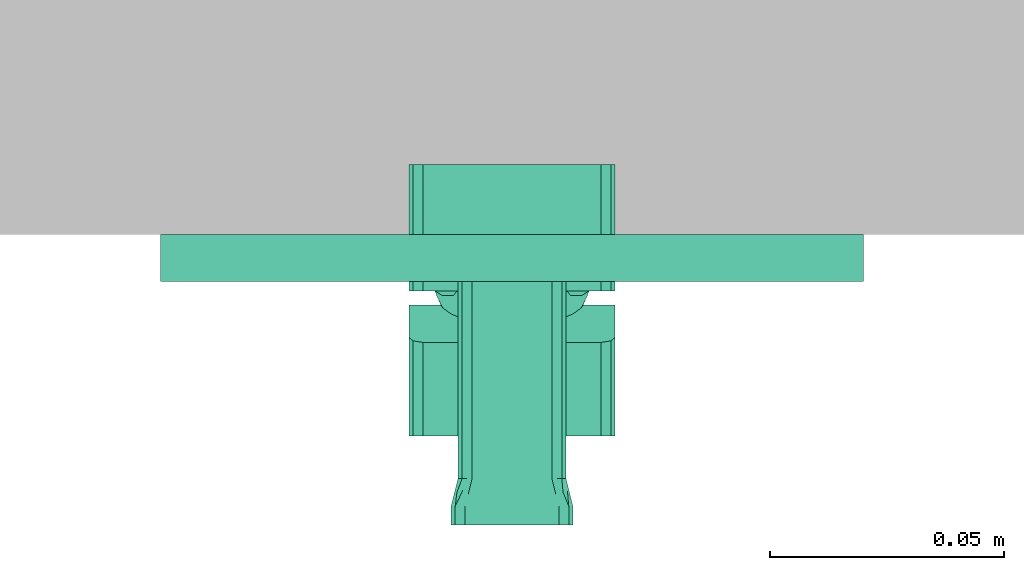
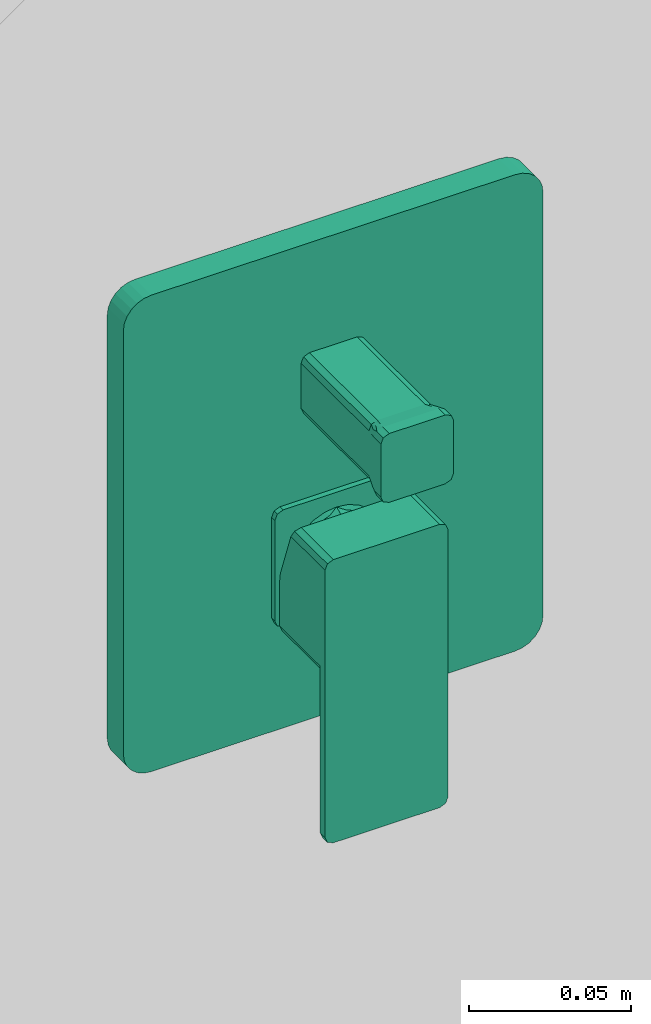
# One storey, part 2 of 2: 1 flow terminal.
"""IFC2X3 building model written with IfcOpenShell, lengths in millimetres."""

from ifc_helpers import new_model, entity, si_unit, converted_unit, derived_unit, direction, frame, origin, place, context, subcontext, project, spatial, faceted_brep, source, transform, mapped, material, type_object, type_shapes, element, save


model = new_model("IFC2X3")

# Units and contexts
model_context = context("Model", 3, precision=0.01, world=origin(), true_north=direction((6.12303176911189e-17, 1.0)))
body_context = subcontext(model_context, "Body", "Model", "MODEL_VIEW")
ifc_project = project(units=[si_unit("LENGTHUNIT", "METRE", prefix="MILLI"), si_unit("AREAUNIT", "SQUARE_METRE"), si_unit("VOLUMEUNIT", "CUBIC_METRE"), converted_unit("PLANEANGLEUNIT", "DEGREE", entity("IfcRatioMeasure", 0.0174532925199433), si_unit("PLANEANGLEUNIT", "RADIAN"), dimensions=[0, 0, 0, 0, 0, 0, 0]), si_unit("MASSUNIT", "GRAM", prefix="KILO"), derived_unit("MASSDENSITYUNIT", [(si_unit("MASSUNIT", "GRAM", prefix="KILO"), 1), (si_unit("LENGTHUNIT", "METRE"), -3)]), derived_unit("MOMENTOFINERTIAUNIT", [(si_unit("LENGTHUNIT", "METRE"), 4)]), si_unit("TIMEUNIT", "SECOND"), si_unit("FREQUENCYUNIT", "HERTZ"), si_unit("THERMODYNAMICTEMPERATUREUNIT", "DEGREE_CELSIUS"), derived_unit("THERMALTRANSMITTANCEUNIT", [(si_unit("MASSUNIT", "GRAM", prefix="KILO"), 1), (si_unit("THERMODYNAMICTEMPERATUREUNIT", "KELVIN"), -1), (si_unit("TIMEUNIT", "SECOND"), -3)]), derived_unit("VOLUMETRICFLOWRATEUNIT", [(si_unit("LENGTHUNIT", "METRE"), 3), (si_unit("TIMEUNIT", "SECOND"), -1)]), si_unit("ELECTRICCURRENTUNIT", "AMPERE"), si_unit("ELECTRICVOLTAGEUNIT", "VOLT"), si_unit("POWERUNIT", "WATT"), si_unit("FORCEUNIT", "NEWTON", prefix="KILO"), si_unit("ILLUMINANCEUNIT", "LUX"), si_unit("LUMINOUSFLUXUNIT", "LUMEN"), si_unit("LUMINOUSINTENSITYUNIT", "CANDELA"), derived_unit("USERDEFINED", [(si_unit("MASSUNIT", "GRAM", prefix="KILO"), -1), (si_unit("LENGTHUNIT", "METRE"), -2), (si_unit("TIMEUNIT", "SECOND"), 3), (si_unit("LUMINOUSFLUXUNIT", "LUMEN"), 1)]), derived_unit("LINEARVELOCITYUNIT", [(si_unit("LENGTHUNIT", "METRE"), 1), (si_unit("TIMEUNIT", "SECOND"), -1)]), si_unit("PRESSUREUNIT", "PASCAL"), derived_unit("USERDEFINED", [(si_unit("LENGTHUNIT", "METRE"), -2), (si_unit("MASSUNIT", "GRAM", prefix="KILO"), 1), (si_unit("TIMEUNIT", "SECOND"), -2)]), derived_unit("LINEARFORCEUNIT", [(si_unit("MASSUNIT", "GRAM", prefix="KILO"), 1), (si_unit("LENGTHUNIT", "METRE"), 1), (si_unit("TIMEUNIT", "SECOND"), -2), (si_unit("LENGTHUNIT", "METRE"), -1)]), derived_unit("PLANARFORCEUNIT", [(si_unit("MASSUNIT", "GRAM", prefix="KILO"), 1), (si_unit("LENGTHUNIT", "METRE"), 1), (si_unit("TIMEUNIT", "SECOND"), -2), (si_unit("LENGTHUNIT", "METRE"), -2)])], contexts=[model_context])

# Site, building, storey
site_placement = place(None, origin())
site = spatial("IfcSite", under=ifc_project, at=site_placement, Name="Default", CompositionType="ELEMENT")
building_placement = place(site_placement, origin())
building = spatial("IfcBuilding", under=site, at=building_placement, CompositionType="ELEMENT")
storey_placement = place(building_placement, origin())
storey = spatial("IfcBuildingStorey", under=building, at=storey_placement, Name="Level 1", CompositionType="ELEMENT", Elevation=0.0)

# Flow terminal
ifc_material = material(Name="Black")
distribution_element_type = type_object("IfcDistributionElementType", Name="FFAS1321-608440BF0_REVIT:Acacia E Concealed BnS  Mixing Valve_MB", material=ifc_material)
shared_shape = source(origin(), body_context, "Body", "Brep", [
    faceted_brep([(66.5952722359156, 77.0, 138.595272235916), (64.4739518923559, 77.0, 139.473951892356), (63.5952722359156, 77.0, 141.595272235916), (63.5952722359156, 77.0, 161.595272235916), (64.473951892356, 77.0, 163.716592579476), (66.5952722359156, 77.0, 164.595272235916), (86.5952722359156, 77.0, 164.595272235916), (88.7165925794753, 77.0, 163.716592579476), (89.5952722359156, 77.0, 161.595272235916), (89.5952722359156, 77.0, 141.595272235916), (88.7165925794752, 77.0, 139.473951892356), (86.5952722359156, 77.0, 138.595272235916), (63.5952722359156, 73.0, 141.595272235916), (63.5952722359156, 73.0, 161.595272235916), (64.4745350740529, 73.0, 139.47336887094), (64.0349036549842, 73.0, 140.534320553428), (66.5952722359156, 73.0, 138.595272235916), (86.5952722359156, 73.0, 138.595272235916), (88.7171756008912, 73.0, 139.474535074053), (87.6562239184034, 73.0, 139.034903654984), (89.5952722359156, 73.0, 141.595272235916), (89.5952722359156, 73.0, 161.595272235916), (88.7160093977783, 73.0, 163.717175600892), (89.175077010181, 73.0, 162.609319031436), (86.5952722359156, 73.0, 164.595272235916), (66.5952722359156, 73.0, 164.595272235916), (64.4745350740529, 73.0, 163.717175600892), (64.0349036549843, 73.0, 162.656223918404), (68.0952722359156, 67.0, 163.095272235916), (85.0952722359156, 67.0, 163.095272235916), (85.9498884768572, 70.418464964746, 163.949888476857), (67.2406561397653, 70.4184643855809, 163.949888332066), (65.6999893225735, 69.9991126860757, 163.353498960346), (67.0812254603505, 67.0, 162.67507701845), (64.7638096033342, 69.7680033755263, 162.213190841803), (65.0952722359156, 67.0, 160.095272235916), (65.97336887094, 67.0, 162.216009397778), (64.4498882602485, 69.5815359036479, 160.740656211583), (64.4498883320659, 69.5815356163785, 142.449888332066), (65.0952722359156, 67.0, 143.095272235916), (64.8368237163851, 70.0, 140.699767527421), (65.9745350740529, 67.0, 140.97336887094), (65.5154674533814, 67.0, 142.081225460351), (65.9773293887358, 69.7680592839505, 139.763801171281), (68.0952722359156, 67.0, 140.095272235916), (67.4498884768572, 69.5815350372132, 139.449888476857), (85.7406561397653, 69.5815356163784, 139.449888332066), (85.0952722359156, 67.0, 140.095272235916), (87.4907769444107, 70.0, 139.836823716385), (87.2171756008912, 67.0, 140.974535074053), (86.1093190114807, 67.0, 140.515467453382), (88.4267433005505, 69.7680592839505, 140.977329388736), (88.0952722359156, 67.0, 143.095272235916), (88.7406559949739, 69.5815350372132, 142.449888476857), (88.0952722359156, 67.0, 160.095272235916), (88.7406561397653, 69.5815356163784, 160.740656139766), (88.3539425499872, 70.0008870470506, 162.49099874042), (87.20516909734, 69.7786593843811, 163.435143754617), (87.2171756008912, 67.0, 162.216009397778), (86.1562239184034, 67.0, 162.655640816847), (65.8725135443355, 43.0155182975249, 162.110053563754), (65.0952722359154, 25.0, 160.095272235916), (65.9739518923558, 25.0, 162.216592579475), (65.0952722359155, 51.8804747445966, 160.095272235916), (68.0952722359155, 40.1195229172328, 163.095272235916), (68.0952722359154, 25.0, 163.095272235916), (65.0952722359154, 25.0, 143.095272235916), (65.0952722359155, 40.1195248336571, 143.095272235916), (66.0804908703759, 43.0155157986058, 140.872513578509), (65.9739518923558, 25.0, 140.973951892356), (68.0952722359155, 51.8804748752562, 140.095272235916), (68.0952722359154, 25.0, 140.095272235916), (85.0952722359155, 25.0, 140.095272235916), (85.0952722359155, 40.1195247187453, 140.095272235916), (87.3180309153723, 43.0155174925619, 141.080490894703), (87.2165925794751, 25.0, 140.973951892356), (88.0952722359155, 51.8804746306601, 143.095272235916), (88.0952722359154, 25.0, 143.095272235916), (88.0952722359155, 51.8804754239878, 160.095272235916), (88.0952722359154, 25.0, 160.095272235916), (87.3180309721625, 43.0155179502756, 162.110053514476), (87.2165925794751, 25.0, 162.216592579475), (85.0952722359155, 40.1195246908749, 163.095272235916), (85.0952722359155, 25.0, 163.095272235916), (11.5952722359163, 15.0, 204.595272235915), (9.00708178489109, 15.0, 204.254530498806), (6.5952722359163, 15.0, 203.255526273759), (4.52420442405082, 15.0, 201.66634004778), (2.9350181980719, 15.0, 199.595272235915), (1.9360139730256, 15.0, 197.18346268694), (1.59527223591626, 15.0, 194.595272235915), (1.595272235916, 15.0, 34.5952722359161), (1.93601397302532, 15.0, 32.007081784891), (2.93501819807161, 15.0, 29.5952722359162), (4.52420442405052, 15.0, 27.5242044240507), (6.59527223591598, 15.0, 25.9350181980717), (9.00708178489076, 15.0, 24.9360139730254), (11.595272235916, 15.0, 24.5952722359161), (141.595272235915, 15.0, 24.5952722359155), (144.18346268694, 15.0, 24.9360139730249), (146.595272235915, 15.0, 25.9350181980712), (148.666340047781, 15.0, 27.52420442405), (150.25552627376, 15.0, 29.5952722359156), (151.254530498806, 15.0, 32.0070817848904), (151.595272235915, 15.0, 34.5952722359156), (151.595272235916, 15.0, 194.595272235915), (151.254530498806, 15.0, 197.183462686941), (150.25552627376, 15.0, 199.595272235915), (148.666340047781, 15.0, 201.666340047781), (146.595272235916, 15.0, 203.25552627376), (144.183462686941, 15.0, 204.254530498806), (141.595272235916, 15.0, 204.595272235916), (4.52420442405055, 25.0, 27.5242044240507), (2.93501819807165, 25.0, 29.5952722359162), (6.59527223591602, 25.0, 25.9350181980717), (9.00708178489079, 25.0, 24.9360139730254), (1.93601397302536, 25.0, 32.007081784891), (11.595272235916, 25.0, 24.5952722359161), (1.59527223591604, 25.0, 34.5952722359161), (1.5952722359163, 25.0, 194.595272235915), (11.5952722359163, 25.0, 204.595272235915), (1.93601397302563, 25.0, 197.18346268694), (9.00708178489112, 25.0, 204.254530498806), (2.93501819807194, 25.0, 199.595272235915), (6.59527223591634, 25.0, 203.255526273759), (4.52420442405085, 25.0, 201.66634004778), (141.595272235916, 25.0, 204.595272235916), (151.595272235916, 25.0, 194.595272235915), (151.254530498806, 25.0, 197.183462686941), (144.183462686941, 25.0, 204.254530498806), (150.25552627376, 25.0, 199.595272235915), (146.595272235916, 25.0, 203.25552627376), (148.666340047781, 25.0, 201.666340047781), (151.595272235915, 25.0, 34.5952722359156), (141.595272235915, 25.0, 24.5952722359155), (151.254530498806, 25.0, 32.0070817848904), (144.18346268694, 25.0, 24.9360139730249), (150.25552627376, 25.0, 29.5952722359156), (146.595272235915, 25.0, 25.9350181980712), (148.666340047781, 25.0, 27.52420442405)], [[[0, 1, 2, 3, 4, 5, 6, 7, 8, 9, 10, 11]], [[12, 13, 3, 2]], [[12, 2, 1]], [[1, 14, 15, 12]], [[14, 0, 16]], [[0, 14, 1]], [[17, 16, 0, 11]], [[17, 11, 10]], [[10, 18, 19, 17]], [[18, 9, 20]], [[9, 18, 10]], [[21, 20, 9, 8]], [[21, 8, 7]], [[7, 22, 23, 21]], [[22, 6, 24]], [[6, 22, 7]], [[25, 24, 6, 5]], [[25, 5, 26]], [[26, 5, 4]], [[4, 3, 13]], [[4, 13, 27, 26]], [[28, 29, 30, 24, 25, 31]], [[31, 32, 33]], [[26, 34, 32]], [[31, 25, 32]], [[32, 25, 26]], [[35, 36, 34]], [[13, 37, 27]], [[27, 37, 34]], [[33, 32, 36]], [[34, 36, 32]], [[33, 28, 31]], [[35, 34, 37]], [[34, 26, 27]], [[12, 38, 39, 35, 37, 13]], [[40, 41, 42]], [[14, 43, 40]], [[38, 15, 40]], [[38, 40, 42]], [[44, 41, 43]], [[43, 14, 16]], [[45, 44, 43, 16]], [[43, 41, 40]], [[42, 39, 38]], [[15, 38, 12]], [[15, 14, 40]], [[17, 46, 47, 44, 45, 16]], [[48, 49, 50]], [[18, 51, 48]], [[46, 19, 48]], [[46, 48, 50]], [[52, 49, 51]], [[51, 18, 20]], [[53, 52, 51, 20]], [[51, 49, 48]], [[50, 47, 46]], [[19, 46, 17]], [[19, 18, 48]], [[54, 52, 53, 20, 21, 55]], [[55, 21, 23]], [[56, 57, 58]], [[23, 22, 56]], [[54, 55, 56]], [[22, 57, 56]], [[24, 30, 57]], [[56, 58, 54]], [[24, 57, 22]], [[30, 59, 57]], [[23, 56, 55]], [[59, 30, 29]], [[59, 58, 57]], [[60, 28, 33, 36]], [[61, 62, 60]], [[63, 60, 36]], [[60, 62, 64]], [[61, 60, 63]], [[36, 35, 63]], [[60, 64, 28]], [[62, 65, 64]], [[66, 61, 63, 35, 39, 67]], [[68, 39, 42, 41]], [[67, 68, 69]], [[70, 68, 41]], [[41, 44, 70]], [[69, 66, 67]], [[71, 68, 70]], [[71, 69, 68]], [[68, 67, 39]], [[72, 71, 70, 44, 47, 73]], [[74, 47, 50, 49]], [[73, 74, 75]], [[76, 74, 49]], [[49, 52, 76]], [[77, 74, 76]], [[74, 73, 47]], [[77, 75, 74]], [[75, 72, 73]], [[77, 76, 52, 54, 78, 79]], [[79, 80, 81]], [[58, 78, 54]], [[80, 58, 59, 29]], [[82, 81, 80]], [[82, 80, 29]], [[78, 80, 79]], [[58, 80, 78]], [[82, 83, 81]], [[83, 82, 29, 28, 64, 65]], [[84, 85, 86, 87, 88, 89, 90, 91, 92, 93, 94, 95, 96, 97, 98, 99, 100, 101, 102, 103, 104, 105, 106, 107, 108, 109, 110, 111]], [[112, 113, 114]], [[115, 114, 113]], [[115, 113, 116]], [[117, 115, 116]], [[118, 117, 116]], [[118, 71, 117]], [[69, 71, 118]], [[66, 69, 118]], [[118, 119, 66]], [[119, 61, 66]], [[120, 61, 119]], [[120, 119, 121]], [[120, 121, 122]], [[122, 121, 123]], [[122, 123, 124]], [[123, 125, 124]], [[120, 62, 61]], [[120, 65, 62]], [[65, 120, 83]], [[83, 120, 126]], [[81, 83, 126]], [[81, 126, 79]], [[79, 126, 127]], [[128, 127, 126]], [[129, 128, 126]], [[129, 130, 128]], [[131, 130, 129]], [[130, 131, 132]], [[79, 127, 77]], [[133, 77, 127]], [[133, 75, 77]], [[72, 75, 133]], [[133, 134, 72]], [[133, 135, 134]], [[136, 134, 135]], [[137, 136, 135]], [[137, 138, 136]], [[138, 137, 139]], [[117, 71, 134]], [[134, 71, 72]], [[85, 84, 120, 122]], [[86, 85, 122, 124]], [[87, 86, 124, 125]], [[88, 87, 125, 123]], [[89, 88, 123, 121]], [[90, 89, 121, 119]], [[91, 90, 119, 118]], [[92, 91, 118, 116]], [[93, 92, 116, 113]], [[94, 93, 113, 112]], [[95, 94, 112, 114]], [[96, 95, 114, 115]], [[97, 96, 115, 117]], [[98, 97, 117, 134]], [[99, 98, 134, 136]], [[100, 99, 136, 138]], [[101, 100, 138, 139]], [[102, 101, 139, 137]], [[103, 102, 137, 135]], [[104, 103, 135, 133]], [[105, 104, 133, 127]], [[106, 105, 127, 128]], [[107, 106, 128, 130]], [[108, 107, 130, 132]], [[109, 108, 132, 131]], [[110, 109, 131, 129]], [[111, 110, 129, 126]], [[84, 111, 126, 120]]]),
    faceted_brep([(98.5952722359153, 30.0, 84.8320024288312), (98.5952722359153, 30.1519224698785, 86.5684842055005), (91.7027571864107, 30.0, 84.8320024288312), (61.48778728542, 30.0, 84.8320024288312), (54.5952722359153, 30.1519224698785, 86.5684842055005), (54.5952722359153, 30.0, 84.8320024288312), (91.7235659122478, 30.1559810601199, 86.5913463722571), (98.5952722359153, 30.6030737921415, 88.2522038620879), (91.3851986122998, 30.6030737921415, 88.2522038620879), (61.4669785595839, 30.1559810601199, 86.5913463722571), (61.8053458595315, 30.6030737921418, 88.2522038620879), (54.5952722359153, 30.6030737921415, 88.2522038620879), (62.3472418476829, 27.0, 78.3691680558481), (60.7036592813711, 27.0, 82.3371273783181), (61.6803467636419, 27.9860034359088, 83.7503461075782), (62.8587537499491, 27.9860034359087, 80.9054199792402), (64.0371607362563, 27.9860034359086, 78.060493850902), (72.3371273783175, 27.0, 70.7036592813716), (68.3691680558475, 27.0, 72.3472418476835), (68.0604938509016, 27.9860034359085, 74.0371607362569), (70.9054199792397, 27.9860034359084, 72.8587537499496), (73.7503461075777, 27.9860034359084, 71.6803467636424), (60.1430638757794, 27.0, 86.5952722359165), (73.7503461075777, 27.9860034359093, 101.51019770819), (76.5952722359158, 27.0, 103.047480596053), (76.5952722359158, 27.9860034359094, 102.688604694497), (68.0604938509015, 27.9860034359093, 99.1533837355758), (65.2155677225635, 27.9860034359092, 97.9749767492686), (64.9618041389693, 27.0, 98.2287403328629), (64.9618041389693, 27.0, 74.9618041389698), (76.5952722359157, 27.0, 70.1430638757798), (65.2155677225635, 27.9860034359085, 75.215567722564), (60.5019397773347, 27.9860034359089, 86.5952722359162), (64.0371607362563, 27.9860034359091, 95.1300506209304), (62.8587537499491, 27.986003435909, 92.2851244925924), (61.6803467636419, 27.986003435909, 89.4401983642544), (60.7036592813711, 27.0, 90.8534170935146), (62.347241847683, 27.0, 94.8213764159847), (76.5952722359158, 27.9860034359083, 70.5019397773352), (72.3371273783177, 27.0, 102.486885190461), (73.2741746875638, 27.9860034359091, 101.312961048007), (70.9054199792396, 27.9860034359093, 100.331790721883), (68.3691680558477, 27.0, 100.843302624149), (90.8433026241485, 27.0, 94.8213764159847), (92.4868851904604, 27.0, 90.8534170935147), (91.5101977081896, 27.986003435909, 89.4401983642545), (90.3317907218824, 27.986003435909, 92.2851244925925), (89.1533837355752, 27.9860034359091, 95.1300506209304), (80.8534170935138, 27.0, 102.486885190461), (84.8213764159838, 27.0, 100.843302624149), (85.1300506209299, 27.9860034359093, 99.1533837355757), (82.2851244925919, 27.9860034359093, 100.331790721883), (79.9163697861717, 27.9860034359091, 101.312961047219), (79.4401983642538, 27.9860034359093, 101.51019770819), (93.0474805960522, 27.0, 86.5952722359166), (79.440198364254, 27.9860034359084, 71.6803467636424), (85.13005062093, 27.9860034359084, 74.0371607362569), (87.9749767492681, 27.9860034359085, 75.2155677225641), (88.2287403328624, 27.0, 74.9618041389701), (88.2287403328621, 27.0, 98.2287403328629), (87.974976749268, 27.9860034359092, 97.9749767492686), (92.6886046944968, 27.9860034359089, 86.5952722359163), (89.1533837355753, 27.9860034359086, 78.0604938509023), (90.3317907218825, 27.9860034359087, 80.9054199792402), (91.5101977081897, 27.9860034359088, 83.7503461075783), (92.4868851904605, 27.0, 82.3371273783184), (90.8433026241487, 27.0, 78.3691680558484), (82.285124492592, 27.9860034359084, 72.8587537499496), (84.8213764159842, 27.0, 72.3472418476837), (80.8534170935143, 27.0, 70.7036592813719), (69.7949130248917, 31.8125776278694, 98.9758830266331), (67.2523528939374, 30.8698670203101, 97.9796523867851), (76.5952722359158, 29.0071944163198, 70.9112268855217), (62.352886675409, 30.0, 81.2567635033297), (64.0509830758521, 30.0, 77.9937589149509), (66.4827596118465, 30.0, 75.2338326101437), (76.5952722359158, 31.4044074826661, 100.991914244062), (76.5952722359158, 30.0, 71.3852353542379), (69.5059885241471, 30.0, 73.138404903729), (72.9438496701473, 30.0, 71.830031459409), (65.8894658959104, 32.8874618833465, 94.5285085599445), (63.4182412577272, 31.8357965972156, 91.6390819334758), (69.0539887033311, 33.689792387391, 96.7328935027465), (72.1495767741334, 31.1942870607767, 100.428314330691), (72.7031843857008, 34.1917522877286, 98.1120169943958), (76.5952722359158, 34.3622118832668, 98.580350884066), (80.4873600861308, 34.1917522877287, 98.1120169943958), (81.0409676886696, 31.1942870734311, 100.428314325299), (83.3956315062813, 31.8125774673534, 98.9758831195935), (84.1365557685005, 33.6897923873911, 96.7328935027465), (89.7723032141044, 31.8357965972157, 91.6390819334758), (87.3010785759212, 32.8874618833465, 94.5285085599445), (85.9381915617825, 30.8698670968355, 97.9796523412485), (83.6845559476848, 30.0, 73.1384049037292), (90.8376577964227, 30.0, 81.25676350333), (89.1395613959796, 30.0, 77.9937589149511), (86.7077848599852, 30.0, 75.2338326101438), (80.2466948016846, 30.0, 71.8300314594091), (95.5952722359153, 0.0, 64.5952722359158), (97.7165925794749, 0.0, 65.4739518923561), (98.5952722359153, 0.0, 67.5952722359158), (98.5952722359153, 0.0, 105.595272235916), (97.716592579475, 0.0, 107.716592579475), (95.5952722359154, 0.0, 108.595272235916), (57.5952722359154, 0.0, 108.595272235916), (55.4739518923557, 0.0, 107.716592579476), (54.5952722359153, 0.0, 105.595272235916), (54.5952722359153, 0.0, 67.5952722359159), (55.4739518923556, 0.0, 65.4739518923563), (57.5952722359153, 0.0, 64.5952722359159), (97.7165925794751, 27.0, 107.716592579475), (98.5952722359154, 27.0, 105.595272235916), (95.5952722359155, 27.0, 108.595272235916), (98.5952722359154, 27.0, 67.5952722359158), (95.5952722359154, 27.0, 64.5952722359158), (97.716592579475, 27.0, 65.4739518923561), (57.5952722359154, 27.0, 64.5952722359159), (54.5952722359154, 27.0, 67.5952722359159), (55.4739518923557, 27.0, 65.4739518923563), (54.5952722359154, 27.0, 105.595272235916), (57.5952722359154, 27.0, 108.595272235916), (55.4739518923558, 27.0, 107.716592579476), (98.5952722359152, 30.0, 67.5952722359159), (98.5952722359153, 55.0, 67.5952722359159), (98.5952722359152, 55.0, 4.59527223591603), (98.5952722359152, 58.0, 4.59527223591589), (98.5952722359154, 58.0, 105.595272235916), (98.5952722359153, 36.9154344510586, 105.595272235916), (97.7165925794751, 58.0, 107.716592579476), (95.5952722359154, 58.0, 108.595272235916), (95.5952722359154, 55.0, 108.595272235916), (57.5952722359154, 38.0073451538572, 108.595272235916), (95.5952722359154, 38.0073451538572, 108.595272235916), (57.5952722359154, 58.0, 108.595272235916), (57.5952722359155, 55.0, 108.595272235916), (55.4739518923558, 58.0, 107.716592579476), (54.5952722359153, 36.9154344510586, 105.595272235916), (54.5952722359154, 58.0, 105.595272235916), (54.5952722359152, 58.0, 4.59527223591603), (54.5952722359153, 55.0, 4.59527223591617), (54.5952722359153, 55.0, 67.5952722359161), (54.5952722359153, 30.0, 67.5952722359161), (55.4739518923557, 55.0, 65.4739518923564), (55.4739518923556, 30.0, 65.4739518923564), (57.5952722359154, 55.0, 64.5952722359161), (57.5952722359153, 30.0, 64.5952722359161), (95.5952722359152, 30.0, 64.5952722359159), (95.5952722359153, 55.0, 64.5952722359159), (97.716592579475, 55.0, 65.4739518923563), (97.7165925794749, 30.0, 65.4739518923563), (97.7165925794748, 58.0, 2.47395189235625), (95.5952722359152, 58.0, 1.5952722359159), (57.5952722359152, 58.0, 1.59527223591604), (55.4739518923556, 58.0, 2.47395189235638), (97.7166004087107, 37.6875290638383, 107.716584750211), (55.47394406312, 37.6875290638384, 107.716584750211), (95.5952722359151, 55.0, 1.59527223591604), (97.7165925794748, 55.0, 2.47395189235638), (55.4739518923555, 55.0, 2.47395189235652), (57.5952722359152, 55.0, 1.59527223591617)], [[[0, 1, 2]], [[3, 4, 5]], [[2, 1, 6]], [[6, 7, 8]], [[9, 10, 11]], [[7, 6, 1]], [[12, 13, 14, 15, 16]], [[17, 18, 19, 20, 21]], [[22, 14, 13]], [[23, 24, 25]], [[26, 27, 28]], [[16, 29, 12]], [[17, 21, 30]], [[29, 19, 18]], [[16, 31, 29]], [[14, 22, 32]], [[33, 34, 35, 36, 37]], [[38, 30, 21]], [[19, 29, 31]], [[39, 23, 40, 41, 26, 42]], [[33, 28, 27]], [[32, 22, 35]], [[26, 28, 42]], [[24, 23, 39]], [[28, 33, 37]], [[22, 36, 35]], [[43, 44, 45, 46, 47]], [[48, 49, 50, 51, 52, 53]], [[54, 45, 44]], [[55, 30, 38]], [[56, 57, 58]], [[47, 59, 43]], [[48, 53, 24]], [[59, 50, 49]], [[47, 60, 59]], [[45, 54, 61]], [[62, 63, 64, 65, 66]], [[25, 24, 53]], [[50, 59, 60]], [[55, 67, 56, 68, 69]], [[62, 58, 57]], [[61, 54, 64]], [[56, 58, 68]], [[30, 55, 69]], [[58, 62, 66]], [[54, 65, 64]], [[26, 70, 71]], [[72, 38, 21]], [[14, 73, 15]], [[3, 14, 32]], [[74, 15, 73]], [[19, 31, 75]], [[71, 27, 26]], [[16, 15, 74, 31]], [[76, 40, 23, 25]], [[72, 21, 77]], [[75, 78, 19]], [[79, 21, 20]], [[73, 14, 3]], [[75, 31, 74]], [[10, 32, 35]], [[78, 20, 19]], [[9, 32, 10]], [[32, 9, 3]], [[27, 71, 80]], [[81, 35, 34, 33]], [[80, 71, 82]], [[76, 83, 40]], [[83, 76, 84]], [[35, 81, 10]], [[81, 33, 80]], [[70, 82, 71]], [[21, 79, 77]], [[84, 76, 85]], [[40, 83, 41]], [[83, 70, 41]], [[70, 84, 82]], [[26, 41, 70]], [[33, 27, 80]], [[79, 20, 78]], [[84, 70, 83]], [[86, 87, 88]], [[86, 88, 89]], [[45, 61, 8]], [[76, 25, 53, 52]], [[8, 61, 6]], [[52, 51, 87]], [[76, 87, 86]], [[46, 45, 90, 47]], [[88, 87, 51]], [[85, 76, 86]], [[88, 51, 50]], [[91, 89, 92]], [[2, 61, 64]], [[76, 52, 87]], [[92, 60, 91]], [[93, 56, 67]], [[64, 94, 2]], [[63, 94, 64]], [[38, 72, 55]], [[88, 92, 89]], [[60, 92, 50]], [[63, 95, 94]], [[6, 61, 2]], [[55, 72, 77]], [[96, 56, 93]], [[90, 45, 8]], [[95, 57, 96]], [[95, 63, 62, 57]], [[96, 57, 56]], [[97, 93, 67]], [[92, 88, 50]], [[97, 67, 55]], [[77, 97, 55]], [[90, 91, 47]], [[91, 60, 47]], [[98, 99, 100, 101, 102, 103, 104, 105, 106, 107, 108, 109]], [[110, 111, 112]], [[112, 111, 59]], [[43, 59, 111]], [[44, 43, 111]], [[54, 44, 111]], [[111, 113, 54]], [[65, 54, 113]], [[66, 65, 113]], [[66, 113, 58]], [[114, 58, 113]], [[113, 115, 114]], [[68, 58, 114]], [[69, 68, 114]], [[69, 114, 30]], [[30, 114, 116]], [[17, 30, 116]], [[18, 17, 116]], [[116, 29, 18]], [[117, 29, 116]], [[117, 116, 118]], [[12, 29, 117]], [[12, 117, 13]], [[22, 13, 117]], [[22, 117, 119]], [[119, 36, 22]], [[37, 36, 119]], [[28, 37, 119]], [[119, 120, 28]], [[119, 121, 120]], [[24, 120, 112]], [[120, 24, 39]], [[39, 42, 120]], [[42, 28, 120]], [[59, 49, 112]], [[49, 48, 112]], [[112, 48, 24]], [[101, 100, 113, 111]], [[7, 1, 0, 122, 123, 124, 125, 126, 127]], [[101, 111, 110, 102]], [[110, 112, 103, 102]], [[128, 129, 130]], [[104, 103, 112, 120]], [[131, 132, 130, 129, 133, 134]], [[104, 120, 121, 105]], [[134, 133, 135]], [[121, 119, 106, 105]], [[107, 106, 119, 117]], [[4, 11, 136, 137, 138, 139, 140, 141, 5]], [[107, 117, 118, 108]], [[141, 140, 142, 143]], [[116, 109, 108, 118]], [[142, 144, 145, 143]], [[98, 109, 116, 114]], [[146, 145, 144, 147]], [[98, 114, 115, 99]], [[146, 147, 148, 149]], [[115, 113, 100, 99]], [[148, 123, 122, 149]], [[146, 149, 122, 0, 2, 94, 95, 96, 93, 97, 77, 79, 78, 75, 74, 73, 3, 5, 141, 143, 145]], [[129, 128, 126, 125, 150, 151, 152, 153, 138, 137, 135, 133]], [[127, 126, 154]], [[154, 126, 128]], [[132, 154, 130]], [[130, 154, 128]], [[131, 134, 155]], [[135, 137, 155]], [[136, 155, 137]], [[135, 155, 134]], [[156, 157, 124, 123, 148, 147, 144, 142, 140, 139, 158, 159]], [[139, 138, 153, 158]], [[153, 152, 159, 158]], [[156, 159, 152, 151]], [[156, 151, 150, 157]], [[150, 125, 124, 157]], [[4, 3, 9]], [[9, 11, 4]], [[90, 8, 7, 127, 154, 132, 131, 155, 136, 11, 10, 81, 80, 82, 84, 85, 86, 89, 91]]]),
])
type_shapes(distribution_element_type, [shared_shape])
flow_terminal_placement = place(storey_placement, frame((343.802340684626, 3049.83382976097, 2995.29883424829), z_axis=(0.0, 0.0, 1.0), x_axis=(-1.0, 0.0, 0.0)))
element("IfcFlowTerminal", 1, at=flow_terminal_placement, inside=storey, type_object=distribution_element_type, material=ifc_material, Name="FFAS1321-608440BF0_REVIT:Acacia E Concealed BnS  Mixing Valve_MB", ObjectType="FFAS1321-608440BF0_REVIT:Acacia E Concealed BnS  Mixing Valve_MB", context=body_context, shape_type="MappedRepresentation", body=[
    mapped(shared_shape, transform((0.0, 0.0, 0.0), scale=1.0)),
])

save(model, "model.ifc")
